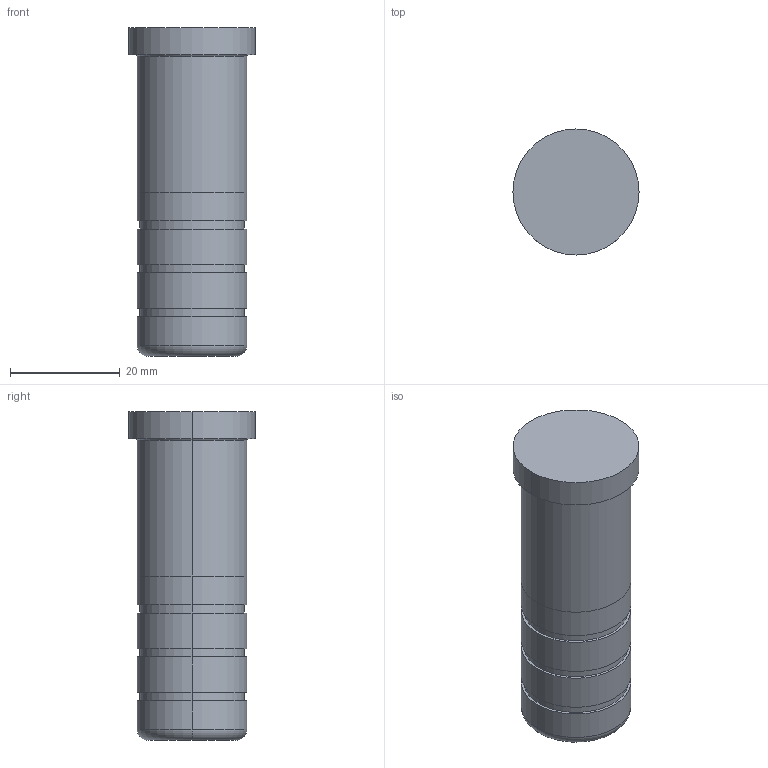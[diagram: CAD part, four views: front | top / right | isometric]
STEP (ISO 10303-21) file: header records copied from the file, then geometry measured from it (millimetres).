
FILE_DESCRIPTION(/* description */ (''),/* implementation_level */ '2;1');
FILE_NAME(/* name */ '3d_sgoh20-60_05192_r00.stp',/* time_stamp */ '2011-01-10T14:11:09+09:00',/* author */ ('MISUMI'),/* organization */ (''),/* preprocessor_version */ 'ST-DEVELOPER v11',/* originating_system */ 'UGS - NX 5.0',/* authorisation */ '');
FILE_SCHEMA (('CONFIG_CONTROL_DESIGN'));
Length unit declared in the file: millimetre
Products named in the file (1): 3d_sgoh20-60_05192_r00
Bounding box: 23 x 23 x 60 mm (x, y, z)
Volume: 19167.6 mm3; surface area: 4755.2 mm2
Topology: 1 solids, 1 shells, 31 faces, 60 edges, 38 vertices
Faces by surface type: cylinder 18, plane 9, torus 4
Entity records: 894 total; most frequent: DIRECTION 166, CARTESIAN_POINT 130, ORIENTED_EDGE 120, AXIS2_PLACEMENT_3D 74, EDGE_CURVE 60, CIRCLE 42, EDGE_LOOP 38, VERTEX_POINT 38
